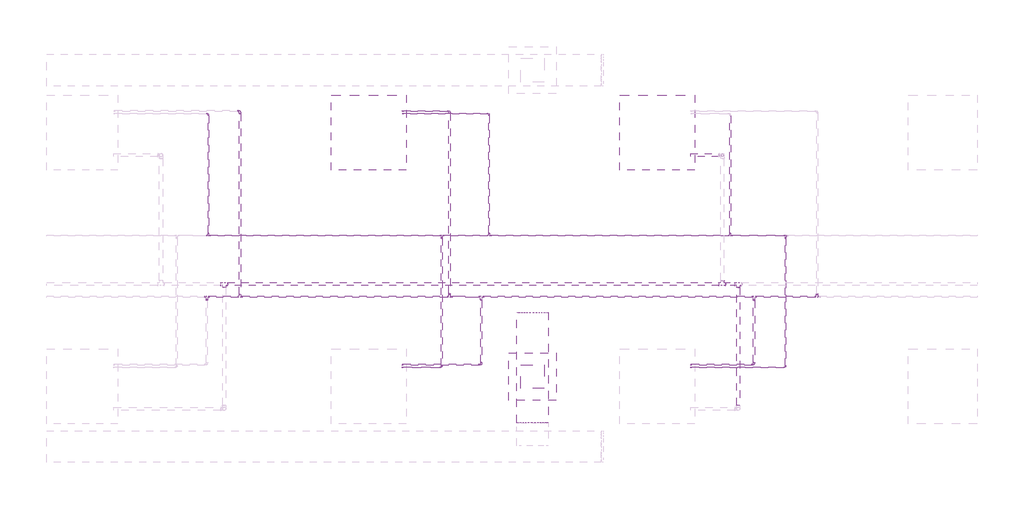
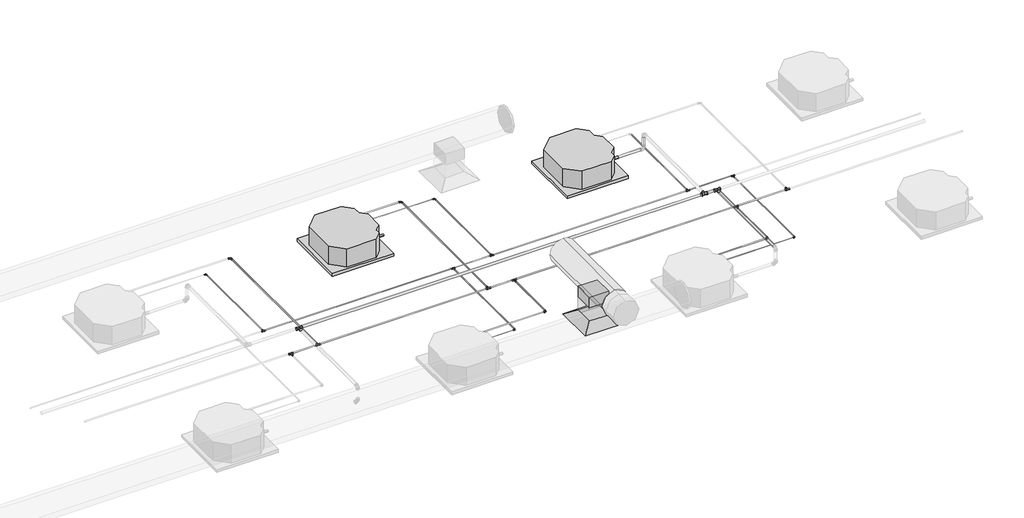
# One storey, part 10 of 22: 38 pipe fittings, 29 pipe segments, 2 duct segments, 2 proxies, 1 air terminal, 1 duct fitting.
"""IFC4 building model written with IfcOpenShell, lengths in millimetres."""

from ifc_helpers import new_model, si_unit, point, frame, frame_2d, origin, place, context, project, spatial, polyline, circle_curve, trimmed, segment, composite_curve, outline, extrude, transform, mapped, element, save
from components import air_terminal_ff221211, mechanical_equipment_53173f38, duct_fitting_95c1ddea, pipe_fitting_14eb6376, pipe_fitting_c900cfc2, pipe_fitting_16c020f5, pipe_fitting_0e110a5f, pipe_fitting_afe73776, pipe_fitting_09966660, pipe_fitting_59d1f3e3, pipe_fitting_648138cd, pipe_fitting_da16c1b3, pipe_fitting_5a6d96d3

model = new_model("IFC4")

# Units and contexts
model_context = context("Model", 3, world=origin())
ifc_project = project(units=[si_unit("LENGTHUNIT", "METRE", prefix="MILLI")], contexts=[model_context])

# Site, building, storey
site = spatial("IfcSite", under=ifc_project)
building = spatial("IfcBuilding", under=site)
storey = spatial("IfcBuildingStorey", under=building, Name="Nível 2", Elevation=3880.0)

# Air terminal
placement = place(None, origin())
air_terminal_shape = air_terminal_ff221211(model_context)
element("IfcAirTerminal", 1, ObjectType="M_Difusor de fornecimento : 600 x 600 Face 300 x 300 Conexão", at=placement, inside=storey, context=model_context, shape_type="MappedRepresentation", body=[
    mapped(air_terminal_shape, transform((20232.8009118, -7878.7092137, 6880.0), x_axis=(1.0, 0.0, 0.0), y_axis=(0.0, 1.0, 0.0), z_axis=(0.0, 0.0, 1.0))),
])

# Proxies
mechanical_equipment_shape = mechanical_equipment_53173f38(model_context)
element("IfcBuildingElementProxy", 2, Name="Midea_VRF_Indoor_4-way Cassette_MI-90(100,112,140)Q4_DHN1-D (2nd DC) : MI2-140Q4DHN1", ObjectType="Midea_VRF_Indoor_4-way Cassette_MI-90(100,112,140)Q4_DHN1-D (2nd DC) : MI2-140Q4DHN1", at=placement, inside=storey, context=model_context, shape_type="MappedRepresentation", body=[
    mapped(mechanical_equipment_shape, transform((21812.1483041, -4786.5566502, 6880.0), x_axis=(1.0, 0.0, 0.0), y_axis=(0.0, 1.0, 0.0), z_axis=(0.0, 0.0, 1.0))),
])
element("IfcBuildingElementProxy", 3, Name="Midea_VRF_Indoor_4-way Cassette_MI-90(100,112,140)Q4_DHN1-D (2nd DC) : MI2-140Q4DHN1", ObjectType="Midea_VRF_Indoor_4-way Cassette_MI-90(100,112,140)Q4_DHN1-D (2nd DC) : MI2-140Q4DHN1", at=placement, inside=storey, context=model_context, shape_type="MappedRepresentation", body=[
    mapped(mechanical_equipment_shape, transform((18157.9283325, -4786.5566502, 6880.0), x_axis=(1.0, 0.0, 0.0), y_axis=(0.0, 1.0, 0.0), z_axis=(0.0, 0.0, 1.0))),
])

# Duct fitting
duct_fitting_shape = duct_fitting_95c1ddea(model_context)
element("IfcDuctFitting", 4, ObjectType="M_Encaixe de duto retangular : Padrão", at=placement, inside=storey, context=model_context, shape_type="MappedRepresentation", body=[
    mapped(duct_fitting_shape, transform((20232.8009118, -7878.7092137, 7301.0), x_axis=(0.0, 0.0, -1.0), y_axis=(0.0, -1.0, 0.0), z_axis=(-1.0, 0.0, 0.0))),
])

# Duct segments
element("IfcDuctSegment", 5, ObjectType="Torneiras / Raio curto", at=placement, inside=storey, context=model_context, shape_type="SweptSolid", body=[
    extrude(outline(composite_curve([segment(trimmed(circle_curve(frame_2d((7501.0, 20232.8009118)), 200.0), [point((7501.0, 20432.8009118))], [point((7701.0, 20232.8009118))], False, "CARTESIAN"), True, "CONTINUOUS"), segment(trimmed(circle_curve(frame_2d((7501.0, 20232.8009118)), 200.0), [point((7701.0, 20232.8009118))], [point((7501.0, 20032.8009118))], False, "CARTESIAN"), True, "CONTINUOUS"), segment(trimmed(circle_curve(frame_2d((7501.0, 20232.8009118)), 200.0), [point((7501.0, 20032.8009118))], [point((7301.0, 20232.8009118))], False, "CARTESIAN"), True, "CONTINUOUS"), segment(trimmed(circle_curve(frame_2d((7501.0, 20232.8009118)), 200.0), [point((7301.0, 20232.8009118))], [point((7501.0, 20432.8009118))], False, "CARTESIAN"), True, "CONTINUOUS")], self_intersect=False)), frame((0.0, -8462.2997628, 0.0), z_axis=(0.0, 1.0, 0.0), x_axis=(0.0, 0.0, 1.0)), (0.0, 0.0, 1.0), 1398.4),
])
element("IfcDuctSegment", 6, ObjectType="Raios cotovelos / torneiras", at=placement, inside=storey, context=model_context, shape_type="SweptSolid", body=[
    extrude(outline(polyline([(20382.8009118, -7728.7092137), (20382.8009118, -8028.7092137), (20082.8009118, -8028.7092137), (20082.8009118, -7728.7092137), (20382.8009118, -7728.7092137)])), frame((0.0, 0.0, 6981.6), z_axis=(0.0, 0.0, 1.0), x_axis=(1.0, 0.0, 0.0)), (0.0, 0.0, 1.0), 217.8),
])

# Pipe fittings
pipe_fitting_shape = pipe_fitting_14eb6376(model_context)
element("IfcPipeFitting", 7, ObjectType="Tê de redução - PVC - CW : Padrão", at=placement, inside=storey, context=model_context, shape_type="MappedRepresentation", body=[
    mapped(pipe_fitting_shape, transform((16328.708361, -6706.7007344, 7380.0), x_axis=(-1.0, 0.0, 0.0), y_axis=(0.0, 1.0, 0.0), z_axis=(0.0, 0.0, -1.0))),
])
element("IfcPipeFitting", 8, ObjectType="Tê de redução - PVC - CW : Padrão", at=placement, inside=storey, context=model_context, shape_type="MappedRepresentation", body=[
    mapped(pipe_fitting_shape, transform((22837.148304, -6706.7007344, 7380.0), x_axis=(-1.0, 0.0, 0.0), y_axis=(0.0, 1.0, 0.0), z_axis=(0.0, 0.0, -1.0))),
])
element("IfcPipeFitting", 9, ObjectType="Tê de redução - PVC - CW : Padrão", at=placement, inside=storey, context=model_context, shape_type="MappedRepresentation", body=[
    mapped(pipe_fitting_shape, transform((22637.148304, -6706.7007344, 7380.0), x_axis=(-1.0, 0.0, 0.0), y_axis=(0.0, -1.0, 0.0), z_axis=(0.0, 0.0, 1.0))),
])
pipe_fitting_2_shape = pipe_fitting_c900cfc2(model_context)
element("IfcPipeFitting", 10, ObjectType="Bucha de redução reta - Soldada - CU : Padrão", at=placement, inside=storey, context=model_context, shape_type="MappedRepresentation", body=[
    mapped(pipe_fitting_2_shape, transform((22237.1483041, -7728.7092137, 7132.3085101), x_axis=(1.0, 0.0, 0.0), y_axis=(0.0, 1.0, 0.0), z_axis=(0.0, 0.0, 1.0))),
])
element("IfcPipeFitting", 11, ObjectType="Bucha de redução reta - Soldada - CU : Padrão", at=placement, inside=storey, context=model_context, shape_type="MappedRepresentation", body=[
    mapped(pipe_fitting_2_shape, transform((18582.9283325, -7728.7092137, 7132.3085101), x_axis=(1.0, 0.0, 0.0), y_axis=(0.0, 1.0, 0.0), z_axis=(0.0, 0.0, 1.0))),
])
element("IfcPipeFitting", 12, ObjectType="Bucha de redução reta - Soldada - CU : Padrão", at=placement, inside=storey, context=model_context, shape_type="MappedRepresentation", body=[
    mapped(pipe_fitting_2_shape, transform((18582.9283325, -4513.3458366, 7132.3085101), x_axis=(1.0, 0.0, 0.0), y_axis=(0.0, 1.0, 0.0), z_axis=(0.0, 0.0, 1.0))),
])
pipe_fitting_3_shape = pipe_fitting_16c020f5(model_context)
element("IfcPipeFitting", 13, ObjectType="Cotovelo - Soldado - CU : Padrão", at=placement, inside=storey, context=model_context, shape_type="MappedRepresentation", body=[
    mapped(pipe_fitting_3_shape, transform((23037.1483041, -7728.7092137, 7132.3085101), x_axis=(1.0, 0.0, 0.0), y_axis=(0.0, 1.0, 0.0), z_axis=(0.0, 0.0, 1.0))),
])
element("IfcPipeFitting", 14, ObjectType="Cotovelo - Soldado - CU : Padrão", at=placement, inside=storey, context=model_context, shape_type="MappedRepresentation", body=[
    mapped(pipe_fitting_3_shape, transform((19582.9283325, -7728.7092137, 7132.3085101), x_axis=(1.0, 0.0, 0.0), y_axis=(0.0, 1.0, 0.0), z_axis=(0.0, 0.0, 1.0))),
])
element("IfcPipeFitting", 15, ObjectType="Cotovelo - Soldado - CU : Padrão", at=placement, inside=storey, context=model_context, shape_type="MappedRepresentation", body=[
    mapped(pipe_fitting_3_shape, transform((19182.9283325, -4513.3458366, 7132.3085101), x_axis=(0.0, 1.0, 0.0), y_axis=(-1.0, 0.0, 0.0), z_axis=(0.0, 0.0, 1.0))),
])
pipe_fitting_4_shape = pipe_fitting_0e110a5f(model_context)
element("IfcPipeFitting", 16, ObjectType="Cotovelo - Soldado - CU : Padrão", at=placement, inside=storey, context=model_context, shape_type="MappedRepresentation", body=[
    mapped(pipe_fitting_4_shape, transform((16528.708361, -4513.3458366, 7132.3085101), x_axis=(0.0, 1.0, 0.0), y_axis=(-1.0, 0.0, 0.0), z_axis=(0.0, 0.0, 1.0))),
])
pipe_fitting_5_shape = pipe_fitting_afe73776(model_context)
element("IfcPipeFitting", 17, ObjectType="Bucha de redução reta - Soldada - CU : Padrão", at=placement, inside=storey, context=model_context, shape_type="MappedRepresentation", body=[
    mapped(pipe_fitting_5_shape, transform((23037.1483041, -6898.1281922, 7132.3085101), x_axis=(0.0, -1.0, 0.0), y_axis=(1.0, 0.0, 0.0), z_axis=(0.0, 0.0, 1.0))),
])
element("IfcPipeFitting", 18, ObjectType="Bucha de redução reta - Soldada - CU : Padrão", at=placement, inside=storey, context=model_context, shape_type="MappedRepresentation", body=[
    mapped(pipe_fitting_5_shape, transform((23837.1483041, -6837.8071922, 7132.3085101), x_axis=(0.0, 1.0, 0.0), y_axis=(-1.0, 0.0, 0.0), z_axis=(0.0, 0.0, 1.0))),
])
element("IfcPipeFitting", 19, ObjectType="Bucha de redução reta - Soldada - CU : Padrão", at=placement, inside=storey, context=model_context, shape_type="MappedRepresentation", body=[
    mapped(pipe_fitting_5_shape, transform((19582.9283325, -6898.1281922, 7132.3085101), x_axis=(0.0, -1.0, 0.0), y_axis=(1.0, 0.0, 0.0), z_axis=(0.0, 0.0, 1.0))),
])
element("IfcPipeFitting", 20, ObjectType="Bucha de redução reta - Soldada - CU : Padrão", at=placement, inside=storey, context=model_context, shape_type="MappedRepresentation", body=[
    mapped(pipe_fitting_5_shape, transform((19182.9283325, -6837.8071922, 7132.3085101), x_axis=(0.0, 1.0, 0.0), y_axis=(-1.0, 0.0, 0.0), z_axis=(0.0, 0.0, 1.0))),
])
element("IfcPipeFitting", 21, ObjectType="Bucha de redução reta - Soldada - CU : Padrão", at=placement, inside=storey, context=model_context, shape_type="MappedRepresentation", body=[
    mapped(pipe_fitting_5_shape, transform((16108.708361, -6898.1281922, 7132.3085101), x_axis=(0.0, -1.0, 0.0), y_axis=(1.0, 0.0, 0.0), z_axis=(0.0, 0.0, 1.0))),
])
pipe_fitting_6_shape = pipe_fitting_09966660(model_context)
element("IfcPipeFitting", 22, ObjectType="Tê - Soldado - CU : Padrão", at=placement, inside=storey, context=model_context, shape_type="MappedRepresentation", body=[
    mapped(pipe_fitting_6_shape, transform((23037.1483041, -6867.9676922, 7132.3085101), x_axis=(-1.0, 0.0, 0.0), y_axis=(0.0, 1.0, 0.0), z_axis=(0.0, 0.0, -1.0))),
])
element("IfcPipeFitting", 23, ObjectType="Tê - Soldado - CU : Padrão", at=placement, inside=storey, context=model_context, shape_type="MappedRepresentation", body=[
    mapped(pipe_fitting_6_shape, transform((23837.1483041, -6867.9676922, 7132.3085101), x_axis=(-1.0, 0.0, 0.0), y_axis=(0.0, -1.0, 0.0), z_axis=(0.0, 0.0, 1.0))),
])
element("IfcPipeFitting", 24, ObjectType="Tê - Soldado - CU : Padrão", at=placement, inside=storey, context=model_context, shape_type="MappedRepresentation", body=[
    mapped(pipe_fitting_6_shape, transform((19582.9283325, -6867.9676922, 7132.3085101), x_axis=(-1.0, 0.0, 0.0), y_axis=(0.0, 1.0, 0.0), z_axis=(0.0, 0.0, -1.0))),
])
element("IfcPipeFitting", 25, ObjectType="Tê - Soldado - CU : Padrão", at=placement, inside=storey, context=model_context, shape_type="MappedRepresentation", body=[
    mapped(pipe_fitting_6_shape, transform((19182.9283325, -6867.9676922, 7132.3085101), x_axis=(-1.0, 0.0, 0.0), y_axis=(0.0, -1.0, 0.0), z_axis=(0.0, 0.0, 1.0))),
])
element("IfcPipeFitting", 26, ObjectType="Tê - Soldado - CU : Padrão", at=placement, inside=storey, context=model_context, shape_type="MappedRepresentation", body=[
    mapped(pipe_fitting_6_shape, transform((16108.708361, -6867.9676922, 7132.3085101), x_axis=(-1.0, 0.0, 0.0), y_axis=(0.0, 1.0, 0.0), z_axis=(0.0, 0.0, -1.0))),
])
element("IfcPipeFitting", 27, ObjectType="Tê - Soldado - CU : Padrão", at=placement, inside=storey, context=model_context, shape_type="MappedRepresentation", body=[
    mapped(pipe_fitting_6_shape, transform((16528.708361, -6867.9676922, 7132.3085101), x_axis=(-1.0, 0.0, 0.0), y_axis=(0.0, -1.0, 0.0), z_axis=(0.0, 0.0, 1.0))),
])
pipe_fitting_7_shape = pipe_fitting_59d1f3e3(model_context)
element("IfcPipeFitting", 28, ObjectType="Bucha de redução reta - Soldada - CU : Padrão", at=placement, inside=storey, context=model_context, shape_type="MappedRepresentation", body=[
    mapped(pipe_fitting_7_shape, transform((22237.1483041, -7762.5116556, 7026.8446487), x_axis=(1.0, 0.0, 0.0), y_axis=(0.0, 1.0, 0.0), z_axis=(0.0, 0.0, 1.0))),
])
element("IfcPipeFitting", 29, ObjectType="Bucha de redução reta - Soldada - CU : Padrão", at=placement, inside=storey, context=model_context, shape_type="MappedRepresentation", body=[
    mapped(pipe_fitting_7_shape, transform((18582.9283325, -7762.5116556, 7026.8446487), x_axis=(1.0, 0.0, 0.0), y_axis=(0.0, 1.0, 0.0), z_axis=(0.0, 0.0, 1.0))),
])
element("IfcPipeFitting", 30, ObjectType="Bucha de redução reta - Soldada - CU : Padrão", at=placement, inside=storey, context=model_context, shape_type="MappedRepresentation", body=[
    mapped(pipe_fitting_7_shape, transform((18582.9283325, -4547.1482784, 7026.8446487), x_axis=(1.0, 0.0, 0.0), y_axis=(0.0, 1.0, 0.0), z_axis=(0.0, 0.0, 1.0))),
])
pipe_fitting_8_shape = pipe_fitting_648138cd(model_context)
element("IfcPipeFitting", 31, ObjectType="Cotovelo - Soldado - CU : Padrão", at=placement, inside=storey, context=model_context, shape_type="MappedRepresentation", body=[
    mapped(pipe_fitting_8_shape, transform((23437.1483041, -7762.5116556, 7026.8446487), x_axis=(1.0, 0.0, 0.0), y_axis=(0.0, 1.0, 0.0), z_axis=(0.0, 0.0, 1.0))),
])
element("IfcPipeFitting", 32, ObjectType="Cotovelo - Soldado - CU : Padrão", at=placement, inside=storey, context=model_context, shape_type="MappedRepresentation", body=[
    mapped(pipe_fitting_8_shape, transform((19082.9283325, -7762.5116556, 7026.8446487), x_axis=(1.0, 0.0, 0.0), y_axis=(0.0, 1.0, 0.0), z_axis=(0.0, 0.0, 1.0))),
])
element("IfcPipeFitting", 33, ObjectType="Cotovelo - Soldado - CU : Padrão", at=placement, inside=storey, context=model_context, shape_type="MappedRepresentation", body=[
    mapped(pipe_fitting_8_shape, transform((19682.9283325, -4547.1482784, 7026.8446487), x_axis=(0.0, 1.0, 0.0), y_axis=(-1.0, 0.0, 0.0), z_axis=(0.0, 0.0, 1.0))),
])
element("IfcPipeFitting", 34, ObjectType="Cotovelo - Soldado - CU : Padrão", at=placement, inside=storey, context=model_context, shape_type="MappedRepresentation", body=[
    mapped(pipe_fitting_8_shape, transform((16128.708361, -4547.1482784, 7026.8446487), x_axis=(0.0, 1.0, 0.0), y_axis=(-1.0, 0.0, 0.0), z_axis=(0.0, 0.0, 1.0))),
])
pipe_fitting_9_shape = pipe_fitting_da16c1b3(model_context)
element("IfcPipeFitting", 35, ObjectType="Tê - Soldado - CU : Padrão", at=placement, inside=storey, context=model_context, shape_type="MappedRepresentation", body=[
    mapped(pipe_fitting_9_shape, transform((23437.1483041, -6091.0991488, 7026.8446487), x_axis=(-1.0, 0.0, 0.0), y_axis=(0.0, 1.0, 0.0), z_axis=(0.0, 0.0, -1.0))),
])
element("IfcPipeFitting", 36, ObjectType="Tê - Soldado - CU : Padrão", at=placement, inside=storey, context=model_context, shape_type="MappedRepresentation", body=[
    mapped(pipe_fitting_9_shape, transform((22737.1483041, -6091.0991488, 7026.8446487), x_axis=(-1.0, 0.0, 0.0), y_axis=(0.0, -1.0, 0.0), z_axis=(0.0, 0.0, 1.0))),
])
element("IfcPipeFitting", 37, ObjectType="Tê - Soldado - CU : Padrão", at=placement, inside=storey, context=model_context, shape_type="MappedRepresentation", body=[
    mapped(pipe_fitting_9_shape, transform((19082.9283325, -6091.0991488, 7026.8446487), x_axis=(-1.0, 0.0, 0.0), y_axis=(0.0, 1.0, 0.0), z_axis=(0.0, 0.0, -1.0))),
])
element("IfcPipeFitting", 38, ObjectType="Tê - Soldado - CU : Padrão", at=placement, inside=storey, context=model_context, shape_type="MappedRepresentation", body=[
    mapped(pipe_fitting_9_shape, transform((19682.9283325, -6091.0991488, 7026.8446487), x_axis=(-1.0, 0.0, 0.0), y_axis=(0.0, -1.0, 0.0), z_axis=(0.0, 0.0, 1.0))),
])
element("IfcPipeFitting", 39, ObjectType="Tê - Soldado - CU : Padrão", at=placement, inside=storey, context=model_context, shape_type="MappedRepresentation", body=[
    mapped(pipe_fitting_9_shape, transform((16128.708361, -6091.0991488, 7026.8446487), x_axis=(-1.0, 0.0, 0.0), y_axis=(0.0, -1.0, 0.0), z_axis=(0.0, 0.0, 1.0))),
])
pipe_fitting_10_shape = pipe_fitting_5a6d96d3(model_context)
element("IfcPipeFitting", 40, ObjectType="Bucha de redução reta - Soldada - CU : Padrão", at=placement, inside=storey, context=model_context, shape_type="MappedRepresentation", body=[
    mapped(pipe_fitting_10_shape, transform((23437.1483041, -6116.1161488, 7026.8446487), x_axis=(0.0, -1.0, 0.0), y_axis=(1.0, 0.0, 0.0), z_axis=(0.0, 0.0, 1.0))),
])
element("IfcPipeFitting", 41, ObjectType="Bucha de redução reta - Soldada - CU : Padrão", at=placement, inside=storey, context=model_context, shape_type="MappedRepresentation", body=[
    mapped(pipe_fitting_10_shape, transform((22737.1483041, -6066.0821488, 7026.8446487), x_axis=(0.0, 1.0, 0.0), y_axis=(-1.0, 0.0, 0.0), z_axis=(0.0, 0.0, 1.0))),
])
element("IfcPipeFitting", 42, ObjectType="Bucha de redução reta - Soldada - CU : Padrão", at=placement, inside=storey, context=model_context, shape_type="MappedRepresentation", body=[
    mapped(pipe_fitting_10_shape, transform((19082.9283325, -6116.1161488, 7026.8446487), x_axis=(0.0, -1.0, 0.0), y_axis=(1.0, 0.0, 0.0), z_axis=(0.0, 0.0, 1.0))),
])
element("IfcPipeFitting", 43, ObjectType="Bucha de redução reta - Soldada - CU : Padrão", at=placement, inside=storey, context=model_context, shape_type="MappedRepresentation", body=[
    mapped(pipe_fitting_10_shape, transform((19682.9283325, -6066.0821488, 7026.8446487), x_axis=(0.0, 1.0, 0.0), y_axis=(-1.0, 0.0, 0.0), z_axis=(0.0, 0.0, 1.0))),
])
element("IfcPipeFitting", 44, ObjectType="Bucha de redução reta - Soldada - CU : Padrão", at=placement, inside=storey, context=model_context, shape_type="MappedRepresentation", body=[
    mapped(pipe_fitting_10_shape, transform((16128.708361, -6066.0821488, 7026.8446487), x_axis=(0.0, 1.0, 0.0), y_axis=(-1.0, 0.0, 0.0), z_axis=(0.0, 0.0, 1.0))),
])

# Pipe segments
element("IfcPipeSegment", 45, ObjectType="Tubos de cobre HVAC", at=placement, inside=storey, context=model_context, shape_type="SweptSolid", body=[
    extrude(outline(composite_curve([segment(trimmed(circle_curve(frame_2d((-7728.7092137, 7132.3085101)), 7.935), [point((-7736.6442137, 7132.3085101))], [point((-7728.7092137, 7140.2435101))], False, "CARTESIAN"), True, "CONTINUOUS"), segment(trimmed(circle_curve(frame_2d((-7728.7092137, 7132.3085101)), 7.935), [point((-7728.7092137, 7140.2435101))], [point((-7720.7742137, 7132.3085101))], False, "CARTESIAN"), True, "CONTINUOUS"), segment(trimmed(circle_curve(frame_2d((-7728.7092137, 7132.3085101)), 7.935), [point((-7720.7742137, 7132.3085101))], [point((-7728.7092137, 7124.3735101))], False, "CARTESIAN"), True, "CONTINUOUS"), segment(trimmed(circle_curve(frame_2d((-7728.7092137, 7132.3085101)), 7.935), [point((-7728.7092137, 7124.3735101))], [point((-7736.6442137, 7132.3085101))], False, "CARTESIAN"), True, "CONTINUOUS")], self_intersect=False)), frame((22249.8072041, 0.0, 0.0), z_axis=(1.0, 0.0, 0.0), x_axis=(0.0, 1.0, 0.0)), (0.0, 0.0, 1.0), 758.3625),
])
element("IfcPipeSegment", 46, ObjectType="Tubos de cobre HVAC", at=placement, inside=storey, context=model_context, shape_type="SweptSolid", body=[
    extrude(outline(composite_curve([segment(trimmed(circle_curve(frame_2d((7132.3085101, 23037.1483041)), 7.935), [point((7132.3085101, 23029.2133041))], [point((7124.3735101, 23037.1483041))], False, "CARTESIAN"), True, "CONTINUOUS"), segment(trimmed(circle_curve(frame_2d((7132.3085101, 23037.1483041)), 7.935), [point((7124.3735101, 23037.1483041))], [point((7132.3085101, 23045.0833041))], False, "CARTESIAN"), True, "CONTINUOUS"), segment(trimmed(circle_curve(frame_2d((7132.3085101, 23037.1483041)), 7.935), [point((7132.3085101, 23045.0833041))], [point((7140.2435101, 23037.1483041))], False, "CARTESIAN"), True, "CONTINUOUS"), segment(trimmed(circle_curve(frame_2d((7132.3085101, 23037.1483041)), 7.935), [point((7140.2435101, 23037.1483041))], [point((7132.3085101, 23029.2133041))], False, "CARTESIAN"), True, "CONTINUOUS")], self_intersect=False)), frame((0.0, -7699.7306137, 0.0), z_axis=(0.0, 1.0, 0.0), x_axis=(0.0, 0.0, 1.0)), (0.0, 0.0, 1.0), 788.9435215),
])
element("IfcPipeSegment", 47, ObjectType="Tubos de cobre HVAC", at=placement, inside=storey, context=model_context, shape_type="SweptSolid", body=[
    extrude(outline(composite_curve([segment(trimmed(circle_curve(frame_2d((-6867.9676922, 7132.3085101)), 9.525), [point((-6877.4926922, 7132.3085101))], [point((-6867.9676922, 7141.8335101))], False, "CARTESIAN"), True, "CONTINUOUS"), segment(trimmed(circle_curve(frame_2d((-6867.9676922, 7132.3085101)), 9.525), [point((-6867.9676922, 7141.8335101))], [point((-6858.4426922, 7132.3085101))], False, "CARTESIAN"), True, "CONTINUOUS"), segment(trimmed(circle_curve(frame_2d((-6867.9676922, 7132.3085101)), 9.525), [point((-6858.4426922, 7132.3085101))], [point((-6867.9676922, 7122.7835101))], False, "CARTESIAN"), True, "CONTINUOUS"), segment(trimmed(circle_curve(frame_2d((-6867.9676922, 7132.3085101)), 9.525), [point((-6867.9676922, 7122.7835101))], [point((-6877.4926922, 7132.3085101))], False, "CARTESIAN"), True, "CONTINUOUS")], self_intersect=False)), frame((19613.1235825, 0.0, 0.0), z_axis=(1.0, 0.0, 0.0), x_axis=(0.0, 1.0, 0.0)), (0.0, 0.0, 1.0), 3393.8294715),
])
element("IfcPipeSegment", 48, ObjectType="Tubos de cobre HVAC", at=placement, inside=storey, context=model_context, shape_type="SweptSolid", body=[
    extrude(outline(composite_curve([segment(trimmed(circle_curve(frame_2d((-6867.9676922, 7132.3085101)), 9.525), [point((-6877.4926922, 7132.3085101))], [point((-6867.9676922, 7141.8335101))], False, "CARTESIAN"), True, "CONTINUOUS"), segment(trimmed(circle_curve(frame_2d((-6867.9676922, 7132.3085101)), 9.525), [point((-6867.9676922, 7141.8335101))], [point((-6858.4426922, 7132.3085101))], False, "CARTESIAN"), True, "CONTINUOUS"), segment(trimmed(circle_curve(frame_2d((-6867.9676922, 7132.3085101)), 9.525), [point((-6858.4426922, 7132.3085101))], [point((-6867.9676922, 7122.7835101))], False, "CARTESIAN"), True, "CONTINUOUS"), segment(trimmed(circle_curve(frame_2d((-6867.9676922, 7132.3085101)), 9.525), [point((-6867.9676922, 7122.7835101))], [point((-6877.4926922, 7132.3085101))], False, "CARTESIAN"), True, "CONTINUOUS")], self_intersect=False)), frame((23067.3435541, 0.0, 0.0), z_axis=(1.0, 0.0, 0.0), x_axis=(0.0, 1.0, 0.0)), (0.0, 0.0, 1.0), 739.6095),
])
element("IfcPipeSegment", 49, ObjectType="Tubos de cobre HVAC", at=placement, inside=storey, context=model_context, shape_type="SweptSolid", body=[
    extrude(outline(composite_curve([segment(trimmed(circle_curve(frame_2d((-7728.7092137, 7132.3085101)), 7.935), [point((-7736.6442137, 7132.3085101))], [point((-7728.7092137, 7140.2435101))], False, "CARTESIAN"), True, "CONTINUOUS"), segment(trimmed(circle_curve(frame_2d((-7728.7092137, 7132.3085101)), 7.935), [point((-7728.7092137, 7140.2435101))], [point((-7720.7742137, 7132.3085101))], False, "CARTESIAN"), True, "CONTINUOUS"), segment(trimmed(circle_curve(frame_2d((-7728.7092137, 7132.3085101)), 7.935), [point((-7720.7742137, 7132.3085101))], [point((-7728.7092137, 7124.3735101))], False, "CARTESIAN"), True, "CONTINUOUS"), segment(trimmed(circle_curve(frame_2d((-7728.7092137, 7132.3085101)), 7.935), [point((-7728.7092137, 7124.3735101))], [point((-7736.6442137, 7132.3085101))], False, "CARTESIAN"), True, "CONTINUOUS")], self_intersect=False)), frame((18595.5872325, 0.0, 0.0), z_axis=(1.0, 0.0, 0.0), x_axis=(0.0, 1.0, 0.0)), (0.0, 0.0, 1.0), 958.3625),
])
element("IfcPipeSegment", 50, ObjectType="Tubos de cobre HVAC", at=placement, inside=storey, context=model_context, shape_type="SweptSolid", body=[
    extrude(outline(composite_curve([segment(trimmed(circle_curve(frame_2d((7132.3085101, 19582.9283325)), 7.935), [point((7132.3085101, 19574.9933325))], [point((7124.3735101, 19582.9283325))], False, "CARTESIAN"), True, "CONTINUOUS"), segment(trimmed(circle_curve(frame_2d((7132.3085101, 19582.9283325)), 7.935), [point((7124.3735101, 19582.9283325))], [point((7132.3085101, 19590.8633325))], False, "CARTESIAN"), True, "CONTINUOUS"), segment(trimmed(circle_curve(frame_2d((7132.3085101, 19582.9283325)), 7.935), [point((7132.3085101, 19590.8633325))], [point((7140.2435101, 19582.9283325))], False, "CARTESIAN"), True, "CONTINUOUS"), segment(trimmed(circle_curve(frame_2d((7132.3085101, 19582.9283325)), 7.935), [point((7140.2435101, 19582.9283325))], [point((7132.3085101, 19574.9933325))], False, "CARTESIAN"), True, "CONTINUOUS")], self_intersect=False)), frame((0.0, -7699.7306137, 0.0), z_axis=(0.0, 1.0, 0.0), x_axis=(0.0, 0.0, 1.0)), (0.0, 0.0, 1.0), 788.9435215),
])
element("IfcPipeSegment", 51, ObjectType="Tubos de cobre HVAC", at=placement, inside=storey, context=model_context, shape_type="SweptSolid", body=[
    extrude(outline(composite_curve([segment(trimmed(circle_curve(frame_2d((-6867.9676922, 7132.3085101)), 9.525), [point((-6877.4926922, 7132.3085101))], [point((-6867.9676922, 7141.8335101))], False, "CARTESIAN"), True, "CONTINUOUS"), segment(trimmed(circle_curve(frame_2d((-6867.9676922, 7132.3085101)), 9.525), [point((-6867.9676922, 7141.8335101))], [point((-6858.4426922, 7132.3085101))], False, "CARTESIAN"), True, "CONTINUOUS"), segment(trimmed(circle_curve(frame_2d((-6867.9676922, 7132.3085101)), 9.525), [point((-6858.4426922, 7132.3085101))], [point((-6867.9676922, 7122.7835101))], False, "CARTESIAN"), True, "CONTINUOUS"), segment(trimmed(circle_curve(frame_2d((-6867.9676922, 7132.3085101)), 9.525), [point((-6867.9676922, 7122.7835101))], [point((-6877.4926922, 7132.3085101))], False, "CARTESIAN"), True, "CONTINUOUS")], self_intersect=False)), frame((19213.1235825, 0.0, 0.0), z_axis=(1.0, 0.0, 0.0), x_axis=(0.0, 1.0, 0.0)), (0.0, 0.0, 1.0), 339.6095),
])
element("IfcPipeSegment", 52, ObjectType="Tubos de cobre HVAC", at=placement, inside=storey, context=model_context, shape_type="SweptSolid", body=[
    extrude(outline(composite_curve([segment(trimmed(circle_curve(frame_2d((-4513.3458366, 7132.3085101)), 7.935), [point((-4521.2808366, 7132.3085101))], [point((-4513.3458366, 7140.2435101))], False, "CARTESIAN"), True, "CONTINUOUS"), segment(trimmed(circle_curve(frame_2d((-4513.3458366, 7132.3085101)), 7.935), [point((-4513.3458366, 7140.2435101))], [point((-4505.4108366, 7132.3085101))], False, "CARTESIAN"), True, "CONTINUOUS"), segment(trimmed(circle_curve(frame_2d((-4513.3458366, 7132.3085101)), 7.935), [point((-4505.4108366, 7132.3085101))], [point((-4513.3458366, 7124.3735101))], False, "CARTESIAN"), True, "CONTINUOUS"), segment(trimmed(circle_curve(frame_2d((-4513.3458366, 7132.3085101)), 7.935), [point((-4513.3458366, 7124.3735101))], [point((-4521.2808366, 7132.3085101))], False, "CARTESIAN"), True, "CONTINUOUS")], self_intersect=False)), frame((18595.5872325, 0.0, 0.0), z_axis=(1.0, 0.0, 0.0), x_axis=(0.0, 1.0, 0.0)), (0.0, 0.0, 1.0), 558.3625),
])
element("IfcPipeSegment", 53, ObjectType="Tubos de cobre HVAC", at=placement, inside=storey, context=model_context, shape_type="SweptSolid", body=[
    extrude(outline(composite_curve([segment(trimmed(circle_curve(frame_2d((7132.3085101, 19182.9283325)), 7.935), [point((7132.3085101, 19190.8633325))], [point((7140.2435101, 19182.9283325))], False, "CARTESIAN"), True, "CONTINUOUS"), segment(trimmed(circle_curve(frame_2d((7132.3085101, 19182.9283325)), 7.935), [point((7140.2435101, 19182.9283325))], [point((7132.3085101, 19174.9933325))], False, "CARTESIAN"), True, "CONTINUOUS"), segment(trimmed(circle_curve(frame_2d((7132.3085101, 19182.9283325)), 7.935), [point((7132.3085101, 19174.9933325))], [point((7124.3735101, 19182.9283325))], False, "CARTESIAN"), True, "CONTINUOUS"), segment(trimmed(circle_curve(frame_2d((7132.3085101, 19182.9283325)), 7.935), [point((7124.3735101, 19182.9283325))], [point((7132.3085101, 19190.8633325))], False, "CARTESIAN"), True, "CONTINUOUS")], self_intersect=False)), frame((0.0, -6825.1482922, 0.0), z_axis=(0.0, 1.0, 0.0), x_axis=(0.0, 0.0, 1.0)), (0.0, 0.0, 1.0), 2282.8238557),
])
element("IfcPipeSegment", 54, ObjectType="Tubos de cobre HVAC", at=placement, inside=storey, context=model_context, shape_type="SweptSolid", body=[
    extrude(outline(composite_curve([segment(trimmed(circle_curve(frame_2d((-6867.9676922, 7132.3085101)), 9.525), [point((-6877.4926922, 7132.3085101))], [point((-6867.9676922, 7141.8335101))], False, "CARTESIAN"), True, "CONTINUOUS"), segment(trimmed(circle_curve(frame_2d((-6867.9676922, 7132.3085101)), 9.525), [point((-6867.9676922, 7141.8335101))], [point((-6858.4426922, 7132.3085101))], False, "CARTESIAN"), True, "CONTINUOUS"), segment(trimmed(circle_curve(frame_2d((-6867.9676922, 7132.3085101)), 9.525), [point((-6858.4426922, 7132.3085101))], [point((-6867.9676922, 7122.7835101))], False, "CARTESIAN"), True, "CONTINUOUS"), segment(trimmed(circle_curve(frame_2d((-6867.9676922, 7132.3085101)), 9.525), [point((-6867.9676922, 7122.7835101))], [point((-6877.4926922, 7132.3085101))], False, "CARTESIAN"), True, "CONTINUOUS")], self_intersect=False)), frame((16558.903611, 0.0, 0.0), z_axis=(1.0, 0.0, 0.0), x_axis=(0.0, 1.0, 0.0)), (0.0, 0.0, 1.0), 2593.8294715),
])
element("IfcPipeSegment", 55, ObjectType="Tubos de cobre HVAC", at=placement, inside=storey, context=model_context, shape_type="SweptSolid", body=[
    extrude(outline(composite_curve([segment(trimmed(circle_curve(frame_2d((7132.3085101, 16528.708361)), 9.525), [point((7132.3085101, 16538.233361))], [point((7141.8335101, 16528.708361))], False, "CARTESIAN"), True, "CONTINUOUS"), segment(trimmed(circle_curve(frame_2d((7132.3085101, 16528.708361)), 9.525), [point((7141.8335101, 16528.708361))], [point((7132.3085101, 16519.183361))], False, "CARTESIAN"), True, "CONTINUOUS"), segment(trimmed(circle_curve(frame_2d((7132.3085101, 16528.708361)), 9.525), [point((7132.3085101, 16519.183361))], [point((7122.7835101, 16528.708361))], False, "CARTESIAN"), True, "CONTINUOUS"), segment(trimmed(circle_curve(frame_2d((7132.3085101, 16528.708361)), 9.525), [point((7122.7835101, 16528.708361))], [point((7132.3085101, 16538.233361))], False, "CARTESIAN"), True, "CONTINUOUS")], self_intersect=False)), frame((0.0, -6837.8071922, 0.0), z_axis=(0.0, 1.0, 0.0), x_axis=(0.0, 0.0, 1.0)), (0.0, 0.0, 1.0), 2293.0023557),
])
element("IfcPipeSegment", 56, ObjectType="Tubos de cobre HVAC", at=placement, inside=storey, context=model_context, shape_type="SweptSolid", body=[
    extrude(outline(composite_curve([segment(trimmed(circle_curve(frame_2d((-6867.9676922, 7132.3085101)), 9.525), [point((-6877.4926922, 7132.3085101))], [point((-6867.9676922, 7141.8335101))], False, "CARTESIAN"), True, "CONTINUOUS"), segment(trimmed(circle_curve(frame_2d((-6867.9676922, 7132.3085101)), 9.525), [point((-6867.9676922, 7141.8335101))], [point((-6858.4426922, 7132.3085101))], False, "CARTESIAN"), True, "CONTINUOUS"), segment(trimmed(circle_curve(frame_2d((-6867.9676922, 7132.3085101)), 9.525), [point((-6858.4426922, 7132.3085101))], [point((-6867.9676922, 7122.7835101))], False, "CARTESIAN"), True, "CONTINUOUS"), segment(trimmed(circle_curve(frame_2d((-6867.9676922, 7132.3085101)), 9.525), [point((-6867.9676922, 7122.7835101))], [point((-6877.4926922, 7132.3085101))], False, "CARTESIAN"), True, "CONTINUOUS")], self_intersect=False)), frame((16138.903611, 0.0, 0.0), z_axis=(1.0, 0.0, 0.0), x_axis=(0.0, 1.0, 0.0)), (0.0, 0.0, 1.0), 359.6095),
])
element("IfcPipeSegment", 57, ObjectType="Tubos de cobre HVAC", at=placement, inside=storey, context=model_context, shape_type="SweptSolid", body=[
    extrude(outline(composite_curve([segment(trimmed(circle_curve(frame_2d((-7762.5116556, 7026.8446487)), 4.76), [point((-7767.2716556, 7026.8446487))], [point((-7762.5116556, 7031.6046487))], False, "CARTESIAN"), True, "CONTINUOUS"), segment(trimmed(circle_curve(frame_2d((-7762.5116556, 7026.8446487)), 4.76), [point((-7762.5116556, 7031.6046487))], [point((-7757.7516556, 7026.8446487))], False, "CARTESIAN"), True, "CONTINUOUS"), segment(trimmed(circle_curve(frame_2d((-7762.5116556, 7026.8446487)), 4.76), [point((-7757.7516556, 7026.8446487))], [point((-7762.5116556, 7022.0846487))], False, "CARTESIAN"), True, "CONTINUOUS"), segment(trimmed(circle_curve(frame_2d((-7762.5116556, 7026.8446487)), 4.76), [point((-7762.5116556, 7022.0846487))], [point((-7767.2716556, 7026.8446487))], False, "CARTESIAN"), True, "CONTINUOUS")], self_intersect=False)), frame((22246.8227041, 0.0, 0.0), z_axis=(1.0, 0.0, 0.0), x_axis=(0.0, 1.0, 0.0)), (0.0, 0.0, 1.0), 1166.3),
])
element("IfcPipeSegment", 58, ObjectType="Tubos de cobre HVAC", at=placement, inside=storey, context=model_context, shape_type="SweptSolid", body=[
    extrude(outline(composite_curve([segment(trimmed(circle_curve(frame_2d((7026.8446487, 23437.1483041)), 4.76), [point((7026.8446487, 23432.3883041))], [point((7022.0846487, 23437.1483041))], False, "CARTESIAN"), True, "CONTINUOUS"), segment(trimmed(circle_curve(frame_2d((7026.8446487, 23437.1483041)), 4.76), [point((7022.0846487, 23437.1483041))], [point((7026.8446487, 23441.9083041))], False, "CARTESIAN"), True, "CONTINUOUS"), segment(trimmed(circle_curve(frame_2d((7026.8446487, 23437.1483041)), 4.76), [point((7026.8446487, 23441.9083041))], [point((7031.6046487, 23437.1483041))], False, "CARTESIAN"), True, "CONTINUOUS"), segment(trimmed(circle_curve(frame_2d((7026.8446487, 23437.1483041)), 4.76), [point((7031.6046487, 23437.1483041))], [point((7026.8446487, 23432.3883041))], False, "CARTESIAN"), True, "CONTINUOUS")], self_intersect=False)), frame((0.0, -7738.4860556, 0.0), z_axis=(0.0, 1.0, 0.0), x_axis=(0.0, 0.0, 1.0)), (0.0, 0.0, 1.0), 1612.6955068),
])
element("IfcPipeSegment", 59, ObjectType="Tubos de cobre HVAC", at=placement, inside=storey, context=model_context, shape_type="SweptSolid", body=[
    extrude(outline(composite_curve([segment(trimmed(circle_curve(frame_2d((-6091.0991488, 7026.8446487)), 6.35), [point((-6097.4491488, 7026.8446487))], [point((-6091.0991488, 7033.1946487))], False, "CARTESIAN"), True, "CONTINUOUS"), segment(trimmed(circle_curve(frame_2d((-6091.0991488, 7026.8446487)), 6.35), [point((-6091.0991488, 7033.1946487))], [point((-6084.7491488, 7026.8446487))], False, "CARTESIAN"), True, "CONTINUOUS"), segment(trimmed(circle_curve(frame_2d((-6091.0991488, 7026.8446487)), 6.35), [point((-6084.7491488, 7026.8446487))], [point((-6091.0991488, 7020.4946487))], False, "CARTESIAN"), True, "CONTINUOUS"), segment(trimmed(circle_curve(frame_2d((-6091.0991488, 7026.8446487)), 6.35), [point((-6091.0991488, 7020.4946487))], [point((-6097.4491488, 7026.8446487))], False, "CARTESIAN"), True, "CONTINUOUS")], self_intersect=False)), frame((22762.2318041, 0.0, 0.0), z_axis=(1.0, 0.0, 0.0), x_axis=(0.0, 1.0, 0.0)), (0.0, 0.0, 1.0), 649.833),
])
element("IfcPipeSegment", 60, ObjectType="Tubos de cobre HVAC", at=placement, inside=storey, context=model_context, shape_type="SweptSolid", body=[
    extrude(outline(composite_curve([segment(trimmed(circle_curve(frame_2d((7026.8446487, 22737.1483041)), 4.76), [point((7026.8446487, 22741.9083041))], [point((7031.6046487, 22737.1483041))], False, "CARTESIAN"), True, "CONTINUOUS"), segment(trimmed(circle_curve(frame_2d((7026.8446487, 22737.1483041)), 4.76), [point((7031.6046487, 22737.1483041))], [point((7026.8446487, 22732.3883041))], False, "CARTESIAN"), True, "CONTINUOUS"), segment(trimmed(circle_curve(frame_2d((7026.8446487, 22737.1483041)), 4.76), [point((7026.8446487, 22732.3883041))], [point((7022.0846487, 22737.1483041))], False, "CARTESIAN"), True, "CONTINUOUS"), segment(trimmed(circle_curve(frame_2d((7026.8446487, 22737.1483041)), 4.76), [point((7022.0846487, 22737.1483041))], [point((7026.8446487, 22741.9083041))], False, "CARTESIAN"), True, "CONTINUOUS")], self_intersect=False)), frame((0.0, -6056.4077488, 0.0), z_axis=(0.0, 1.0, 0.0), x_axis=(0.0, 0.0, 1.0)), (0.0, 0.0, 1.0), 1485.2338704),
])
element("IfcPipeSegment", 61, ObjectType="Tubos de cobre HVAC", at=placement, inside=storey, context=model_context, shape_type="SweptSolid", body=[
    extrude(outline(composite_curve([segment(trimmed(circle_curve(frame_2d((-6091.0991488, 7026.8446487)), 6.35), [point((-6097.4491488, 7026.8446487))], [point((-6091.0991488, 7033.1946487))], False, "CARTESIAN"), True, "CONTINUOUS"), segment(trimmed(circle_curve(frame_2d((-6091.0991488, 7026.8446487)), 6.35), [point((-6091.0991488, 7033.1946487))], [point((-6084.7491488, 7026.8446487))], False, "CARTESIAN"), True, "CONTINUOUS"), segment(trimmed(circle_curve(frame_2d((-6091.0991488, 7026.8446487)), 6.35), [point((-6084.7491488, 7026.8446487))], [point((-6091.0991488, 7020.4946487))], False, "CARTESIAN"), True, "CONTINUOUS"), segment(trimmed(circle_curve(frame_2d((-6091.0991488, 7026.8446487)), 6.35), [point((-6091.0991488, 7020.4946487))], [point((-6097.4491488, 7026.8446487))], False, "CARTESIAN"), True, "CONTINUOUS")], self_intersect=False)), frame((19708.0118325, 0.0, 0.0), z_axis=(1.0, 0.0, 0.0), x_axis=(0.0, 1.0, 0.0)), (0.0, 0.0, 1.0), 3004.0529715),
])
element("IfcPipeSegment", 62, ObjectType="Tubos de cobre HVAC", at=placement, inside=storey, context=model_context, shape_type="SweptSolid", body=[
    extrude(outline(composite_curve([segment(trimmed(circle_curve(frame_2d((-7762.5116556, 7026.8446487)), 4.76), [point((-7767.2716556, 7026.8446487))], [point((-7762.5116556, 7031.6046487))], False, "CARTESIAN"), True, "CONTINUOUS"), segment(trimmed(circle_curve(frame_2d((-7762.5116556, 7026.8446487)), 4.76), [point((-7762.5116556, 7031.6046487))], [point((-7757.7516556, 7026.8446487))], False, "CARTESIAN"), True, "CONTINUOUS"), segment(trimmed(circle_curve(frame_2d((-7762.5116556, 7026.8446487)), 4.76), [point((-7757.7516556, 7026.8446487))], [point((-7762.5116556, 7022.0846487))], False, "CARTESIAN"), True, "CONTINUOUS"), segment(trimmed(circle_curve(frame_2d((-7762.5116556, 7026.8446487)), 4.76), [point((-7762.5116556, 7022.0846487))], [point((-7767.2716556, 7026.8446487))], False, "CARTESIAN"), True, "CONTINUOUS")], self_intersect=False)), frame((18592.6027325, 0.0, 0.0), z_axis=(1.0, 0.0, 0.0), x_axis=(0.0, 1.0, 0.0)), (0.0, 0.0, 1.0), 466.3),
])
element("IfcPipeSegment", 63, ObjectType="Tubos de cobre HVAC", at=placement, inside=storey, context=model_context, shape_type="SweptSolid", body=[
    extrude(outline(composite_curve([segment(trimmed(circle_curve(frame_2d((7026.8446487, 19082.9283325)), 4.76), [point((7026.8446487, 19078.1683325))], [point((7022.0846487, 19082.9283325))], False, "CARTESIAN"), True, "CONTINUOUS"), segment(trimmed(circle_curve(frame_2d((7026.8446487, 19082.9283325)), 4.76), [point((7022.0846487, 19082.9283325))], [point((7026.8446487, 19087.6883325))], False, "CARTESIAN"), True, "CONTINUOUS"), segment(trimmed(circle_curve(frame_2d((7026.8446487, 19082.9283325)), 4.76), [point((7026.8446487, 19087.6883325))], [point((7031.6046487, 19082.9283325))], False, "CARTESIAN"), True, "CONTINUOUS"), segment(trimmed(circle_curve(frame_2d((7026.8446487, 19082.9283325)), 4.76), [point((7031.6046487, 19082.9283325))], [point((7026.8446487, 19078.1683325))], False, "CARTESIAN"), True, "CONTINUOUS")], self_intersect=False)), frame((0.0, -7738.4860556, 0.0), z_axis=(0.0, 1.0, 0.0), x_axis=(0.0, 0.0, 1.0)), (0.0, 0.0, 1.0), 1612.6955068),
])
element("IfcPipeSegment", 64, ObjectType="Tubos de cobre HVAC", at=placement, inside=storey, context=model_context, shape_type="SweptSolid", body=[
    extrude(outline(composite_curve([segment(trimmed(circle_curve(frame_2d((-6091.0991488, 7026.8446487)), 6.35), [point((-6097.4491488, 7026.8446487))], [point((-6091.0991488, 7033.1946487))], False, "CARTESIAN"), True, "CONTINUOUS"), segment(trimmed(circle_curve(frame_2d((-6091.0991488, 7026.8446487)), 6.35), [point((-6091.0991488, 7033.1946487))], [point((-6084.7491488, 7026.8446487))], False, "CARTESIAN"), True, "CONTINUOUS"), segment(trimmed(circle_curve(frame_2d((-6091.0991488, 7026.8446487)), 6.35), [point((-6084.7491488, 7026.8446487))], [point((-6091.0991488, 7020.4946487))], False, "CARTESIAN"), True, "CONTINUOUS"), segment(trimmed(circle_curve(frame_2d((-6091.0991488, 7026.8446487)), 6.35), [point((-6091.0991488, 7020.4946487))], [point((-6097.4491488, 7026.8446487))], False, "CARTESIAN"), True, "CONTINUOUS")], self_intersect=False)), frame((16153.791861, 0.0, 0.0), z_axis=(1.0, 0.0, 0.0), x_axis=(0.0, 1.0, 0.0)), (0.0, 0.0, 1.0), 2904.0529715),
])
element("IfcPipeSegment", 65, ObjectType="Tubos de cobre HVAC", at=placement, inside=storey, context=model_context, shape_type="SweptSolid", body=[
    extrude(outline(composite_curve([segment(trimmed(circle_curve(frame_2d((-4547.1482784, 7026.8446487)), 4.76), [point((-4551.9082784, 7026.8446487))], [point((-4547.1482784, 7031.6046487))], False, "CARTESIAN"), True, "CONTINUOUS"), segment(trimmed(circle_curve(frame_2d((-4547.1482784, 7026.8446487)), 4.76), [point((-4547.1482784, 7031.6046487))], [point((-4542.3882784, 7026.8446487))], False, "CARTESIAN"), True, "CONTINUOUS"), segment(trimmed(circle_curve(frame_2d((-4547.1482784, 7026.8446487)), 4.76), [point((-4542.3882784, 7026.8446487))], [point((-4547.1482784, 7022.0846487))], False, "CARTESIAN"), True, "CONTINUOUS"), segment(trimmed(circle_curve(frame_2d((-4547.1482784, 7026.8446487)), 4.76), [point((-4547.1482784, 7022.0846487))], [point((-4551.9082784, 7026.8446487))], False, "CARTESIAN"), True, "CONTINUOUS")], self_intersect=False)), frame((18592.6027325, 0.0, 0.0), z_axis=(1.0, 0.0, 0.0), x_axis=(0.0, 1.0, 0.0)), (0.0, 0.0, 1.0), 1066.3),
])
element("IfcPipeSegment", 66, ObjectType="Tubos de cobre HVAC", at=placement, inside=storey, context=model_context, shape_type="SweptSolid", body=[
    extrude(outline(composite_curve([segment(trimmed(circle_curve(frame_2d((7026.8446487, 19682.9283325)), 4.76), [point((7026.8446487, 19687.6883325))], [point((7031.6046487, 19682.9283325))], False, "CARTESIAN"), True, "CONTINUOUS"), segment(trimmed(circle_curve(frame_2d((7026.8446487, 19682.9283325)), 4.76), [point((7031.6046487, 19682.9283325))], [point((7026.8446487, 19678.1683325))], False, "CARTESIAN"), True, "CONTINUOUS"), segment(trimmed(circle_curve(frame_2d((7026.8446487, 19682.9283325)), 4.76), [point((7026.8446487, 19678.1683325))], [point((7022.0846487, 19682.9283325))], False, "CARTESIAN"), True, "CONTINUOUS"), segment(trimmed(circle_curve(frame_2d((7026.8446487, 19682.9283325)), 4.76), [point((7022.0846487, 19682.9283325))], [point((7026.8446487, 19687.6883325))], False, "CARTESIAN"), True, "CONTINUOUS")], self_intersect=False)), frame((0.0, -6056.4077488, 0.0), z_axis=(0.0, 1.0, 0.0), x_axis=(0.0, 0.0, 1.0)), (0.0, 0.0, 1.0), 1485.2338704),
])
element("IfcPipeSegment", 67, ObjectType="Tubos de cobre HVAC", at=placement, inside=storey, context=model_context, shape_type="SweptSolid", body=[
    extrude(outline(composite_curve([segment(trimmed(circle_curve(frame_2d((-6091.0991488, 7026.8446487)), 6.35), [point((-6097.4491488, 7026.8446487))], [point((-6091.0991488, 7033.1946487))], False, "CARTESIAN"), True, "CONTINUOUS"), segment(trimmed(circle_curve(frame_2d((-6091.0991488, 7026.8446487)), 6.35), [point((-6091.0991488, 7033.1946487))], [point((-6084.7491488, 7026.8446487))], False, "CARTESIAN"), True, "CONTINUOUS"), segment(trimmed(circle_curve(frame_2d((-6091.0991488, 7026.8446487)), 6.35), [point((-6084.7491488, 7026.8446487))], [point((-6091.0991488, 7020.4946487))], False, "CARTESIAN"), True, "CONTINUOUS"), segment(trimmed(circle_curve(frame_2d((-6091.0991488, 7026.8446487)), 6.35), [point((-6091.0991488, 7020.4946487))], [point((-6097.4491488, 7026.8446487))], False, "CARTESIAN"), True, "CONTINUOUS")], self_intersect=False)), frame((19108.0118325, 0.0, 0.0), z_axis=(1.0, 0.0, 0.0), x_axis=(0.0, 1.0, 0.0)), (0.0, 0.0, 1.0), 549.833),
])
element("IfcPipeSegment", 68, ObjectType="Tubos de cobre HVAC", at=placement, inside=storey, context=model_context, shape_type="SweptSolid", body=[
    extrude(outline(composite_curve([segment(trimmed(circle_curve(frame_2d((7026.8446487, 16128.708361)), 4.76), [point((7026.8446487, 16133.468361))], [point((7031.6046487, 16128.708361))], False, "CARTESIAN"), True, "CONTINUOUS"), segment(trimmed(circle_curve(frame_2d((7026.8446487, 16128.708361)), 4.76), [point((7031.6046487, 16128.708361))], [point((7026.8446487, 16123.948361))], False, "CARTESIAN"), True, "CONTINUOUS"), segment(trimmed(circle_curve(frame_2d((7026.8446487, 16128.708361)), 4.76), [point((7026.8446487, 16123.948361))], [point((7022.0846487, 16128.708361))], False, "CARTESIAN"), True, "CONTINUOUS"), segment(trimmed(circle_curve(frame_2d((7026.8446487, 16128.708361)), 4.76), [point((7022.0846487, 16128.708361))], [point((7026.8446487, 16133.468361))], False, "CARTESIAN"), True, "CONTINUOUS")], self_intersect=False)), frame((0.0, -6056.4077488, 0.0), z_axis=(0.0, 1.0, 0.0), x_axis=(0.0, 0.0, 1.0)), (0.0, 0.0, 1.0), 1485.2338704),
])
element("IfcPipeSegment", 69, ObjectType="Plástico", at=placement, inside=storey, context=model_context, shape_type="SweptSolid", body=[
    extrude(outline(composite_curve([segment(trimmed(circle_curve(frame_2d((7380.0, 22837.148304)), 20.0), [point((7380.0, 22817.148304))], [point((7360.0, 22837.148304))], False, "CARTESIAN"), True, "CONTINUOUS"), segment(trimmed(circle_curve(frame_2d((7380.0, 22837.148304)), 20.0), [point((7360.0, 22837.148304))], [point((7380.0, 22857.148304))], False, "CARTESIAN"), True, "CONTINUOUS"), segment(trimmed(circle_curve(frame_2d((7380.0, 22837.148304)), 20.0), [point((7380.0, 22857.148304))], [point((7400.0, 22837.148304))], False, "CARTESIAN"), True, "CONTINUOUS"), segment(trimmed(circle_curve(frame_2d((7380.0, 22837.148304)), 20.0), [point((7400.0, 22837.148304))], [point((7380.0, 22817.148304))], False, "CARTESIAN"), True, "CONTINUOUS")], self_intersect=False)), frame((0.0, -8241.9200274, 0.0), z_axis=(0.0, 1.0, 0.0), x_axis=(0.0, 0.0, 1.0)), (0.0, 0.0, 1.0), 1491.219293),
])
element("IfcPipeSegment", 70, ObjectType="Plástico", at=placement, inside=storey, context=model_context, shape_type="SweptSolid", body=[
    extrude(outline(composite_curve([segment(trimmed(circle_curve(frame_2d((-6706.7007344, 7380.0)), 20.0), [point((-6726.7007344, 7380.0))], [point((-6706.7007344, 7400.0))], False, "CARTESIAN"), True, "CONTINUOUS"), segment(trimmed(circle_curve(frame_2d((-6706.7007344, 7380.0)), 20.0), [point((-6706.7007344, 7400.0))], [point((-6686.7007344, 7380.0))], False, "CARTESIAN"), True, "CONTINUOUS"), segment(trimmed(circle_curve(frame_2d((-6706.7007344, 7380.0)), 20.0), [point((-6686.7007344, 7380.0))], [point((-6706.7007344, 7360.0))], False, "CARTESIAN"), True, "CONTINUOUS"), segment(trimmed(circle_curve(frame_2d((-6706.7007344, 7380.0)), 20.0), [point((-6706.7007344, 7360.0))], [point((-6726.7007344, 7380.0))], False, "CARTESIAN"), True, "CONTINUOUS")], self_intersect=False)), frame((22680.398304, 0.0, 0.0), z_axis=(1.0, 0.0, 0.0), x_axis=(0.0, 1.0, 0.0)), (0.0, 0.0, 1.0), 113.5),
])
element("IfcPipeSegment", 71, ObjectType="Plástico", at=placement, inside=storey, context=model_context, shape_type="SweptSolid", body=[
    extrude(outline(composite_curve([segment(trimmed(circle_curve(frame_2d((0.0, -20.0)), 20.0), [point((-20.0, -20.0))], [point((0.0, 0.0))], False, "CARTESIAN"), True, "CONTINUOUS"), segment(trimmed(circle_curve(frame_2d((0.0, -20.0)), 20.0), [point((0.0, 0.0))], [point((20.0, -20.0))], False, "CARTESIAN"), True, "CONTINUOUS"), segment(trimmed(circle_curve(frame_2d((0.0, -20.0)), 20.0), [point((20.0, -20.0))], [point((0.0, -40.0))], False, "CARTESIAN"), True, "CONTINUOUS"), segment(trimmed(circle_curve(frame_2d((0.0, -20.0)), 20.0), [point((0.0, -40.0))], [point((-20.0, -20.0))], False, "CARTESIAN"), True, "CONTINUOUS")], self_intersect=False)), frame((22592.1473892, -5071.5566502, 7112.3009574), z_axis=(-0.9999999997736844, 0.0, 2.1275133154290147e-05), x_axis=(0.0, 1.0, 0.0)), (0.0, 0.0, 1.0), 354.9995107),
])
element("IfcPipeSegment", 72, ObjectType="Plástico", at=placement, inside=storey, context=model_context, shape_type="SweptSolid", body=[
    extrude(outline(composite_curve([segment(trimmed(circle_curve(frame_2d((22637.148304, -5071.5566502)), 20.0), [point((22657.148304, -5071.5566502))], [point((22637.148304, -5091.5566502))], False, "CARTESIAN"), True, "CONTINUOUS"), segment(trimmed(circle_curve(frame_2d((22637.148304, -5071.5566502)), 20.0), [point((22637.148304, -5091.5566502))], [point((22617.148304, -5071.5566502))], False, "CARTESIAN"), True, "CONTINUOUS"), segment(trimmed(circle_curve(frame_2d((22637.148304, -5071.5566502)), 20.0), [point((22617.148304, -5071.5566502))], [point((22637.148304, -5051.5566502))], False, "CARTESIAN"), True, "CONTINUOUS"), segment(trimmed(circle_curve(frame_2d((22637.148304, -5071.5566502)), 20.0), [point((22637.148304, -5051.5566502))], [point((22657.148304, -5071.5566502))], False, "CARTESIAN"), True, "CONTINUOUS")], self_intersect=False)), frame((0.0, 0.0, 7177.3004893), z_axis=(0.0, 0.0, 1.0), x_axis=(1.0, 0.0, 0.0)), (0.0, 0.0, 1.0), 157.6995107),
])
element("IfcPipeSegment", 73, ObjectType="Plástico", at=placement, inside=storey, context=model_context, shape_type="SweptSolid", body=[
    extrude(outline(composite_curve([segment(trimmed(circle_curve(frame_2d((-6706.7007344, 7380.0)), 20.0), [point((-6726.7007344, 7380.0))], [point((-6706.7007344, 7400.0))], False, "CARTESIAN"), True, "CONTINUOUS"), segment(trimmed(circle_curve(frame_2d((-6706.7007344, 7380.0)), 20.0), [point((-6706.7007344, 7400.0))], [point((-6686.7007344, 7380.0))], False, "CARTESIAN"), True, "CONTINUOUS"), segment(trimmed(circle_curve(frame_2d((-6706.7007344, 7380.0)), 20.0), [point((-6686.7007344, 7380.0))], [point((-6706.7007344, 7360.0))], False, "CARTESIAN"), True, "CONTINUOUS"), segment(trimmed(circle_curve(frame_2d((-6706.7007344, 7380.0)), 20.0), [point((-6706.7007344, 7360.0))], [point((-6726.7007344, 7380.0))], False, "CARTESIAN"), True, "CONTINUOUS")], self_intersect=False)), frame((16371.958361, 0.0, 0.0), z_axis=(1.0, 0.0, 0.0), x_axis=(0.0, 1.0, 0.0)), (0.0, 0.0, 1.0), 6221.939943),
])

save(model, "model.ifc")
